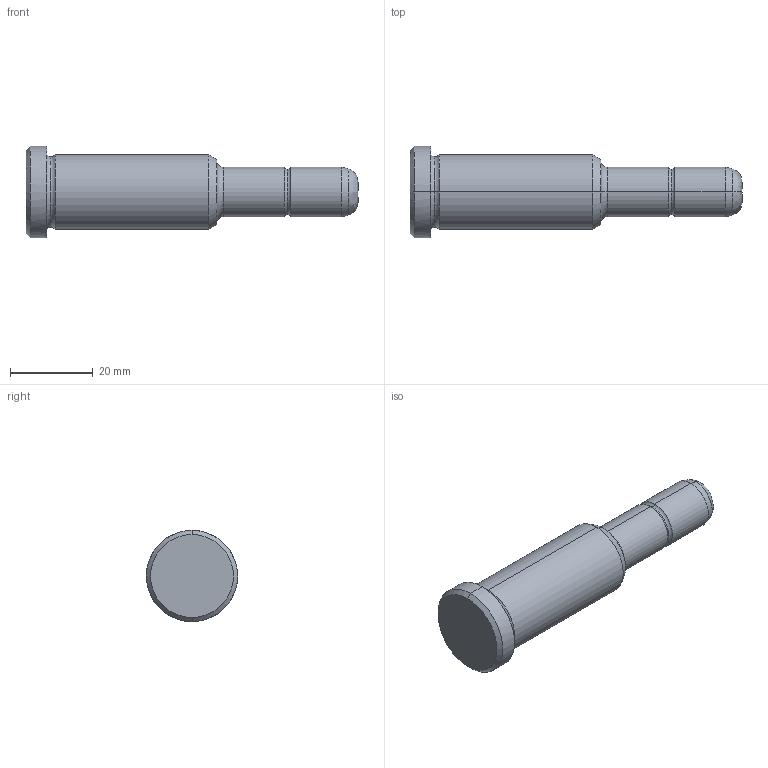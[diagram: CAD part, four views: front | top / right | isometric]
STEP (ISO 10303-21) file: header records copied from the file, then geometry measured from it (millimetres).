
FILE_DESCRIPTION(('CATIA V5 STEP Exchange'),'2;1');
FILE_NAME('C:\Users\Utente\Desktop\IO LAVORO\3D X SITO CF\X SITO\PLASTICA\351\351-12X46X80.stp','2021-08-17T13:20:11+00:00',('none'),('none'),'CATIA Version 5 Release 20 GA (IN-10)','CATIA V5 STEP AP203','none');
FILE_SCHEMA(('CONFIG_CONTROL_DESIGN'));
Length unit declared in the file: millimetre
Products named in the file (1): 351-12X46X80
Bounding box: 80 x 22 x 22 mm (x, y, z)
Volume: 15938 mm3; surface area: 4546 mm2
Topology: 1 solids, 1 shells, 30 faces, 86 edges, 60 vertices
Faces by surface type: torus 10, cylinder 8, cone 6, plane 4, bspline 2
Entity records: 1128 total; most frequent: CARTESIAN_POINT 343, ORIENTED_EDGE 172, DIRECTION 124, EDGE_CURVE 86, AXIS2_PLACEMENT_3D 83, VERTEX_POINT 60, CIRCLE 54, EDGE_LOOP 32
